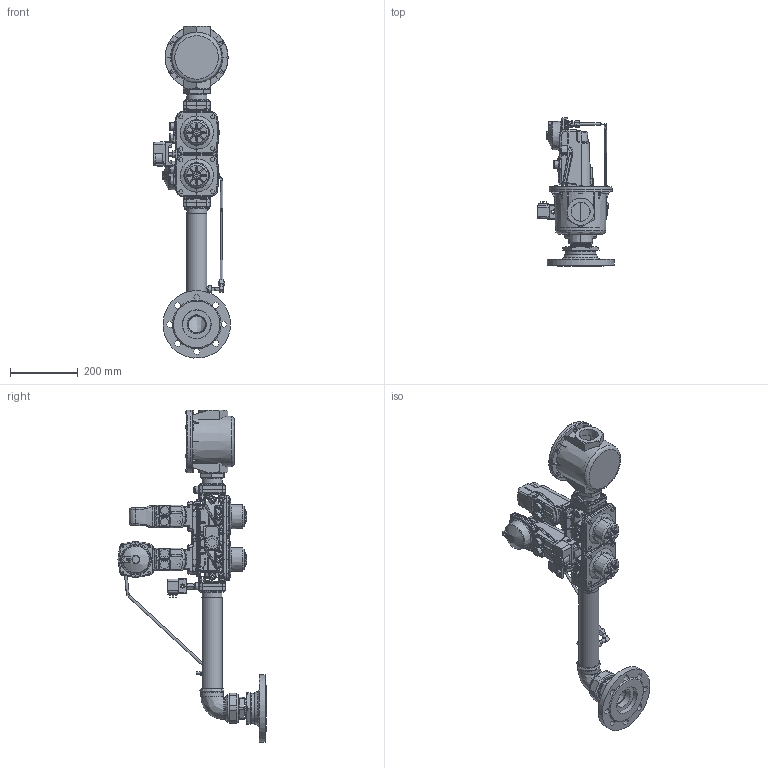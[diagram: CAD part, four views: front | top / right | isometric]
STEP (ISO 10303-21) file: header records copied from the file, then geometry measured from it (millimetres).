
FILE_DESCRIPTION (( 'STEP AP203' ), '1' );
FILE_NAME ('19990541-RAMPA MOD. VGD20-2 GI-TBG ME.STEP', '2017-08-29T13:15:17', ( '' ), ( '' ), 'SwSTEP 2.0', 'SolidWorks 2016', '' );
FILE_SCHEMA (( 'CONFIG_CONTROL_DESIGN' ));
Length unit declared in the file: millimetre
Products named in the file (1): 19990541-RAMPA MOD. VGD20-2 GI-TBG ME
Bounding box: 227.42 x 438.51 x 982.87 mm (x, y, z)
Surface area: 909072.4 mm2 (no closed solid volume)
Topology: 0 solids, 141 shells, 3818 faces, 13761 edges, 9597 vertices
Faces by surface type: bspline 1393, plane 1282, cylinder 1060, cone 83
Full cylindrical faces by diameter (mm): 2 x1, 3 x1, 5.4 x1, 6 x2, 6.2 x2, 8 x3, 9 x14, 11.5 x2, 11.55 x1, 12 x20, 12.5 x2, 13 x16, 13.157 x1, 14 x5, 15 x6, 18 x19, 18.5 x6, 20 x1, 22.5 x4, 24.5 x4, 26 x2, 36.15 x2, 56.656 x1, 57 x1, 59.614 x3, 60.3 x1, 61 x1, 66 x2, 73.45 x1, 81.52 x1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
Entity records: 253432 total; most frequent: CARTESIAN_POINT 159283, ORIENTED_EDGE 19965, DIRECTION 14193, EDGE_CURVE 13277, VERTEX_POINT 9423, B_SPLINE_CURVE_WITH_KNOTS 5829, AXIS2_PLACEMENT_3D 4849, VECTOR 4495
